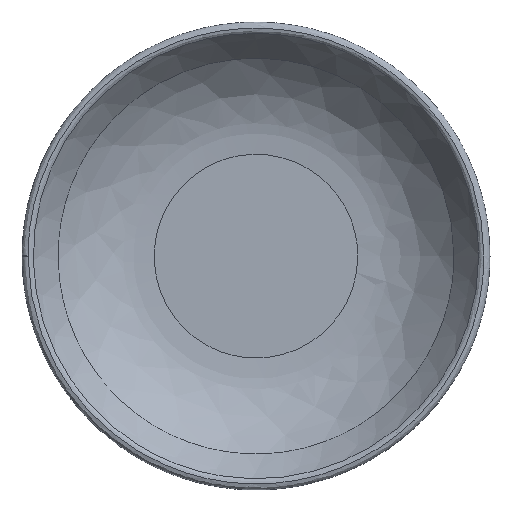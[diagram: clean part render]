
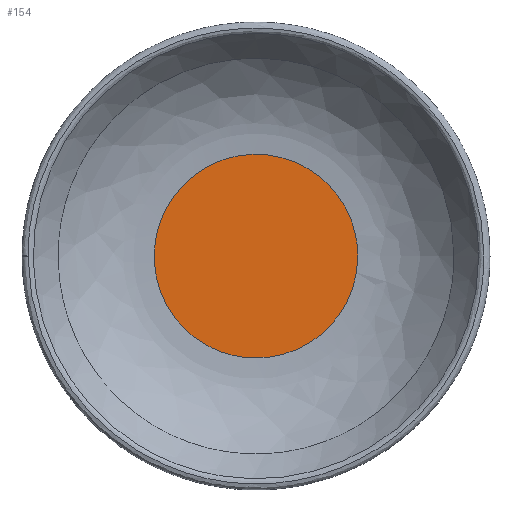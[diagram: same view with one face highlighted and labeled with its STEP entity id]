
A CAD part, top view. The second image highlights one B-rep face of the part: STEP entity #154.
In plain terms, the highlighted planar face has unit normal (0, 0, 1).
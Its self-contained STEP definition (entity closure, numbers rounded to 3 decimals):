
#16=PLANE('',#177);
#27=FACE_OUTER_BOUND('',#37,.T.);
#37=EDGE_LOOP('',(#130));
#57=B_SPLINE_CURVE_WITH_KNOTS('',3,(#1264,#1265,#1266,#1267,#1268,#1269,
#1270,#1271,#1272,#1273,#1274,#1275,#1276,#1277,#1278,#1279,#1280,#1281),
 .UNSPECIFIED.,.T.,.F.,(4,1,1,1,1,1,1,1,1,1,1,1,1,1,1,4),(-6.283,
-5.834,-5.386,-4.787,-4.488,
-4.189,-3.59,-2.992,-2.842,
-2.693,-2.094,-1.795,-1.346,
-0.898,-0.449,0.),.UNSPECIFIED.);
#72=VERTEX_POINT('',#1243);
#92=EDGE_CURVE('',#72,#72,#57,.T.);
#130=ORIENTED_EDGE('',*,*,#92,.F.);
#154=ADVANCED_FACE('',(#27),#16,.T.);
#177=AXIS2_PLACEMENT_3D('',#1398,#193,#194);
#193=DIRECTION('center_axis',(0.,0.,1.));
#194=DIRECTION('ref_axis',(1.,0.,0.));
#1243=CARTESIAN_POINT('',(16.197,0.,7.));
#1264=CARTESIAN_POINT('Ctrl Pts',(16.197,0.,
7.));
#1265=CARTESIAN_POINT('Ctrl Pts',(16.197,-2.423,7.));
#1266=CARTESIAN_POINT('Ctrl Pts',(15.091,-7.263,7.));
#1267=CARTESIAN_POINT('Ctrl Pts',(9.931,-13.753,7.));
#1268=CARTESIAN_POINT('Ctrl Pts',(2.861,-16.53,7.));
#1269=CARTESIAN_POINT('Ctrl Pts',(-3.658,-16.023,7.));
#1270=CARTESIAN_POINT('Ctrl Pts',(-9.746,-13.652,7.));
#1271=CARTESIAN_POINT('Ctrl Pts',(-15.494,-7.462,7.));
#1272=CARTESIAN_POINT('Ctrl Pts',(-16.626,0.056,7.));
#1273=CARTESIAN_POINT('Ctrl Pts',(-15.534,4.791,7.));
#1274=CARTESIAN_POINT('Ctrl Pts',(-13.769,9.323,7.));
#1275=CARTESIAN_POINT('Ctrl Pts',(-9.746,13.645,7.));
#1276=CARTESIAN_POINT('Ctrl Pts',(-2.896,16.328,7.));
#1277=CARTESIAN_POINT('Ctrl Pts',(3.726,16.333,7.));
#1278=CARTESIAN_POINT('Ctrl Pts',(10.445,13.096,7.));
#1279=CARTESIAN_POINT('Ctrl Pts',(15.092,7.268,7.));
#1280=CARTESIAN_POINT('Ctrl Pts',(16.197,2.423,7.));
#1281=CARTESIAN_POINT('Ctrl Pts',(16.197,0.,
7.));
#1398=CARTESIAN_POINT('Origin',(0.,0.,7.));
